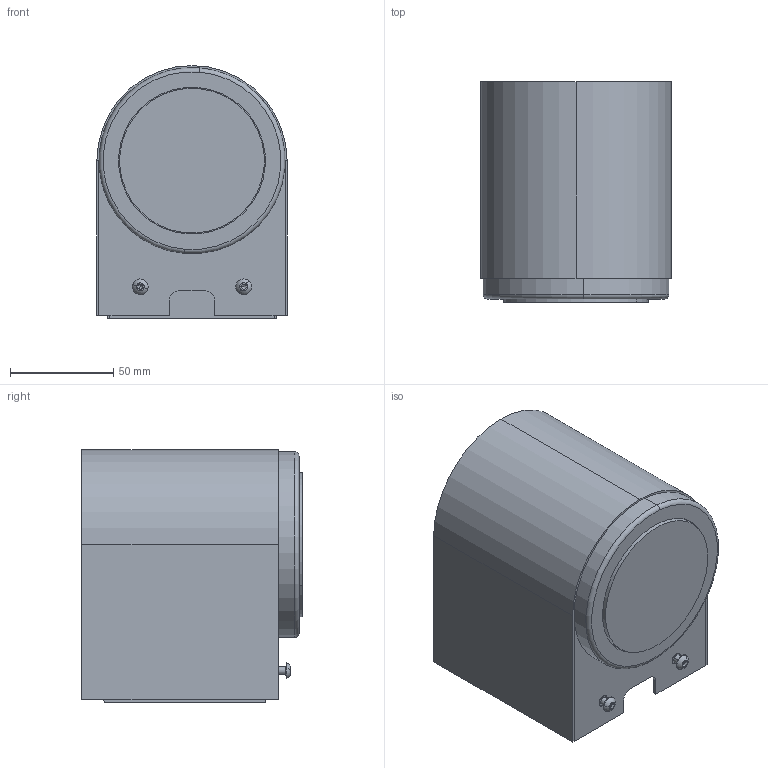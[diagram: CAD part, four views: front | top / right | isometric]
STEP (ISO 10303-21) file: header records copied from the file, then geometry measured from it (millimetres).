
FILE_DESCRIPTION (( 'STEP AP203' ), '1' );
FILE_NAME ('MANDAL 1373_1374.STEP', '2020-06-22T09:07:02', ( '' ), ( '' ), 'SwSTEP 2.0', 'SolidWorks 2019', '' );
FILE_SCHEMA (( 'CONFIG_CONTROL_DESIGN' ));
Length unit declared in the file: millimetre
Products named in the file (15): MANDAL 1373_1374; M121K_Obud spaw_rs; M121W2_Rurka 2_rs_M121W2; M121K_Ty³ bla_rs; M121K_Pokrywa dolna_rs; M121_Bla obud_rs_M121K; M4 nakrêtka okr¹g³a wciskana_rs; Wkrêt walc imb_M4x_rs_M4 x 12; M121K_Pokrywa dolna_rs_Z otw W2; M121W2_Pokr_rs_W2G; M121_Bla 2 wzmoc_rs; M121K_Ty³ kom_rs; M121K_Ty³ spaw_rs; M121K_Przód kom_rs_w1; M121_Szybka w2_rs_G｢ra
Assembly tree (17 placements, depth 4):
  MANDAL 1373_1374
    M121K_Przód kom_rs_w1
      M121K_Obud spaw_rs
        M121_Bla obud_rs_M121K
        M121W2_Pokr_rs_W2G
        M121K_Pokrywa dolna_rs
        M121K_Pokrywa dolna_rs_Z otw W2
        M4 nakrêtka okr¹g³a wciskana_rs  x2
      M121_Szybka w2_rs_G｢ra
      Wkrêt walc imb_M4x_rs_M4 x 12  x2
    M121K_Ty³ kom_rs
      M121K_Ty³ spaw_rs
        M121K_Ty³ bla_rs
        M121W2_Rurka 2_rs_M121W2  x2
        M121_Bla 2 wzmoc_rs
Bounding box: 92 x 106.5 x 122.3 mm (x, y, z)
Volume: 103390.8 mm3; surface area: 141850.7 mm2
Topology: 13 solids, 13 shells, 1062 faces, 3008 edges, 1978 vertices
Faces by surface type: plane 760, cone 212, cylinder 76, torus 8, sphere 4, bspline 2
Entity records: 21342 total; most frequent: CARTESIAN_POINT 4115, ORIENTED_EDGE 3420, DIRECTION 3128, EDGE_CURVE 1710, LINE 1148, VECTOR 1148, VERTEX_POINT 1119, AXIS2_PLACEMENT_3D 990
